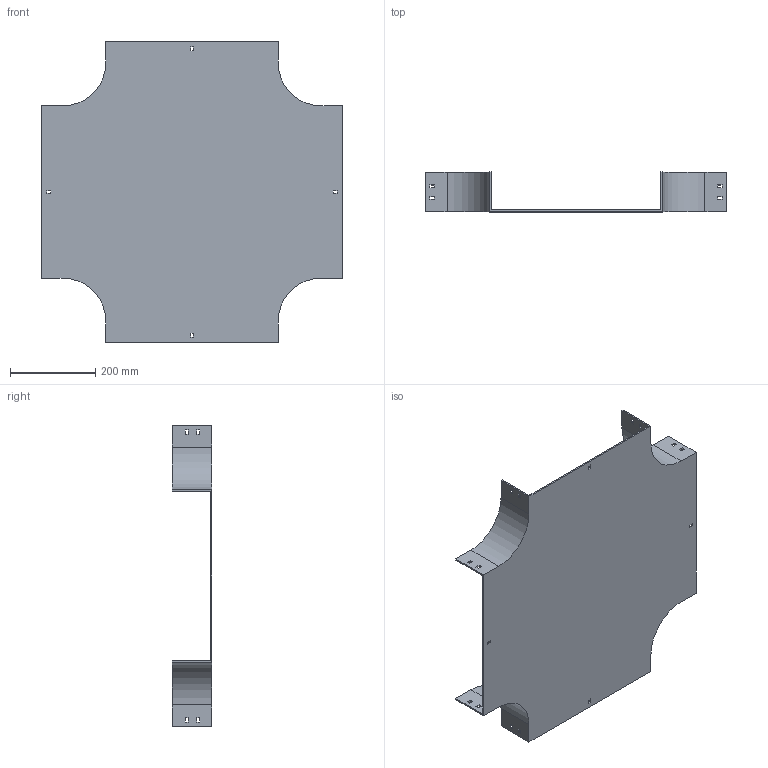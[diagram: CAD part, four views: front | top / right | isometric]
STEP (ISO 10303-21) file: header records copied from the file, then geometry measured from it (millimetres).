
FILE_DESCRIPTION (( 'STEP AP214' ), '1' );
FILE_NAME ('17B1I400.step', '2025-02-21T09:58:52', ( '' ), ( '' ), 'SwSTEP 2.0', 'SolidWorks 2023', '' );
FILE_SCHEMA (( 'AUTOMOTIVE_DESIGN' ));
Length unit declared in the file: millimetre
Products named in the file (1): 17B1I400
Bounding box: 704 x 92.5 x 704 mm (x, y, z)
Volume: 1768707.6 mm3; surface area: 1024775.2 mm2
Topology: 1 solids, 1 shells, 114 faces, 336 edges, 224 vertices
Faces by surface type: plane 106, cylinder 8
Entity records: 3839 total; most frequent: CARTESIAN_POINT 675, ORIENTED_EDGE 672, DIRECTION 582, EDGE_CURVE 336, LINE 320, VECTOR 320, VERTEX_POINT 224, EDGE_LOOP 154
